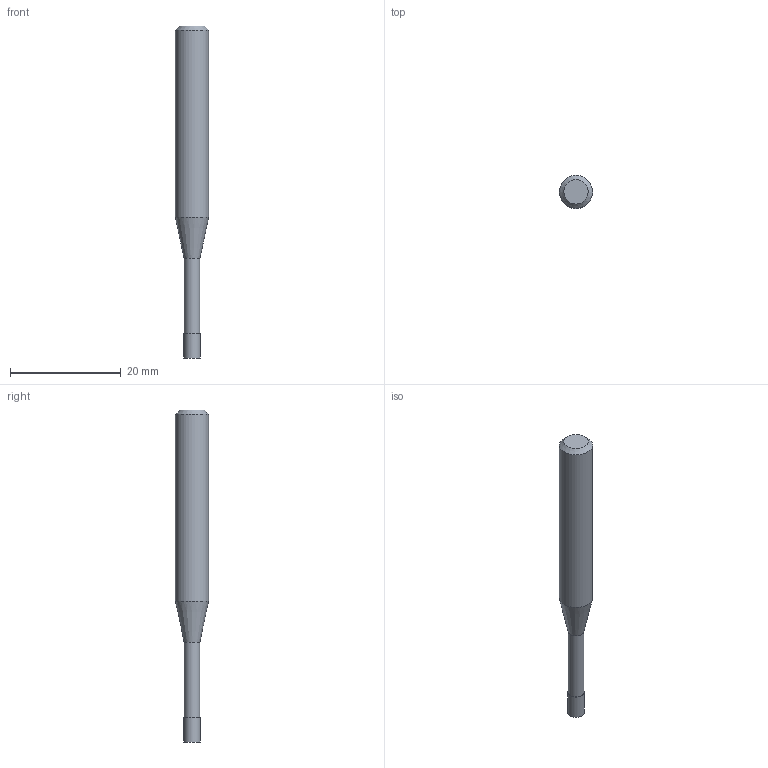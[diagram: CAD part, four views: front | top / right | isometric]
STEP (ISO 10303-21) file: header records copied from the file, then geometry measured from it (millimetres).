
FILE_DESCRIPTION((''),'2;1');
FILE_NAME('C:\Users\nsx150\AppData\Local\Temp\Mastercam 2021\17T8Q8S9EB\TEMP.step','2021-04-21T14:28:27',(''),(''),'STEP Write','Mastercam 2021 ... CNC Software, Inc.','');
FILE_SCHEMA(('AUTOMOTIVE_DESIGN'));
Length unit declared in the file: millimetre
Products named in the file (1): None
Bounding box: 6 x 6 x 60 mm (x, y, z)
Volume: 1209.2 mm3; surface area: 959.7 mm2
Topology: 2 solids, 2 shells, 9 faces, 12 edges, 7 vertices
Faces by surface type: plane 4, cylinder 3, cone 2
Full cylindrical faces by diameter (mm): 2.85 x1, 3 x1, 6 x1
Entity records: 211 total; most frequent: DIRECTION 36, CARTESIAN_POINT 25, AXIS2_PLACEMENT_3D 18, ORIENTED_EDGE 14, EDGE_LOOP 14, STYLED_ITEM 12, ADVANCED_FACE 9, FACE_BOUND 8
